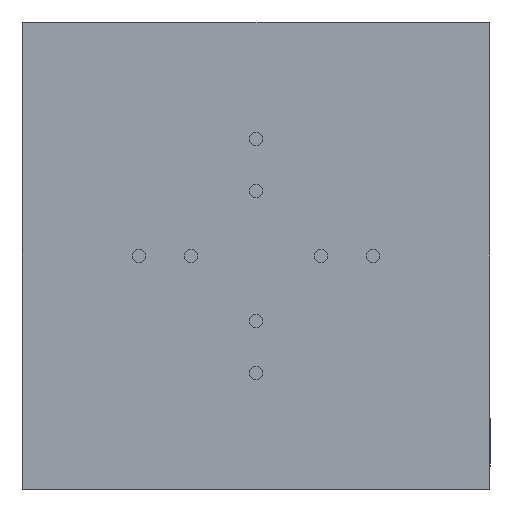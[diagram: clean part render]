
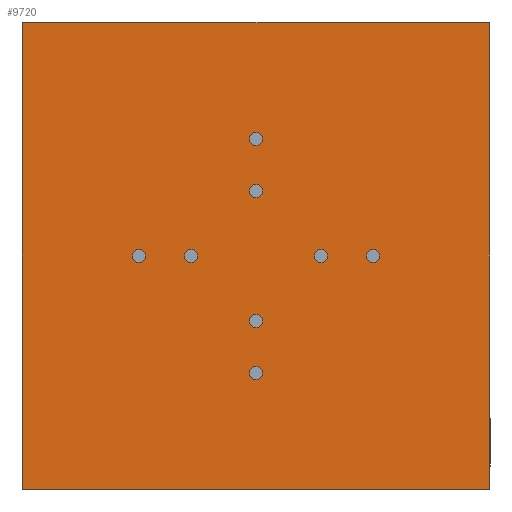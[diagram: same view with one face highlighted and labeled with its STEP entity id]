
A CAD part, left-side view. The second image highlights one B-rep face of the part: STEP entity #9720.
In plain terms, the highlighted planar face has unit normal (-1, 0, 0).
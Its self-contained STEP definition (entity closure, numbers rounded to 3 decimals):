
#529=CIRCLE('',#14145,2.459);
#530=CIRCLE('',#14147,2.459);
#531=CIRCLE('',#14149,2.459);
#532=CIRCLE('',#14151,2.459);
#533=CIRCLE('',#14153,2.459);
#534=CIRCLE('',#14155,2.459);
#535=CIRCLE('',#14157,2.459);
#536=CIRCLE('',#14159,2.459);
#2934=ORIENTED_EDGE('',*,*,#4045,.T.);
#2935=ORIENTED_EDGE('',*,*,#4044,.T.);
#2936=ORIENTED_EDGE('',*,*,#4043,.T.);
#2937=ORIENTED_EDGE('',*,*,#4042,.T.);
#2938=ORIENTED_EDGE('',*,*,#4041,.T.);
#2939=ORIENTED_EDGE('',*,*,#4040,.T.);
#2940=ORIENTED_EDGE('',*,*,#4039,.T.);
#2941=ORIENTED_EDGE('',*,*,#4038,.T.);
#2942=ORIENTED_EDGE('',*,*,#4320,.T.);
#2943=ORIENTED_EDGE('',*,*,#4321,.T.);
#2944=ORIENTED_EDGE('',*,*,#4322,.T.);
#2945=ORIENTED_EDGE('',*,*,#4323,.T.);
#4038=EDGE_CURVE('',#5087,#5087,#529,.T.);
#4039=EDGE_CURVE('',#5088,#5088,#530,.T.);
#4040=EDGE_CURVE('',#5089,#5089,#531,.T.);
#4041=EDGE_CURVE('',#5090,#5090,#532,.T.);
#4042=EDGE_CURVE('',#5091,#5091,#533,.T.);
#4043=EDGE_CURVE('',#5092,#5092,#534,.T.);
#4044=EDGE_CURVE('',#5093,#5093,#535,.T.);
#4045=EDGE_CURVE('',#5094,#5094,#536,.T.);
#4320=EDGE_CURVE('',#5273,#5274,#5917,.T.);
#4321=EDGE_CURVE('',#5274,#5275,#5918,.T.);
#4322=EDGE_CURVE('',#5275,#5276,#5919,.T.);
#4323=EDGE_CURVE('',#5276,#5273,#5920,.T.);
#5087=VERTEX_POINT('',#19858);
#5088=VERTEX_POINT('',#19861);
#5089=VERTEX_POINT('',#19864);
#5090=VERTEX_POINT('',#19867);
#5091=VERTEX_POINT('',#19870);
#5092=VERTEX_POINT('',#19873);
#5093=VERTEX_POINT('',#19876);
#5094=VERTEX_POINT('',#19879);
#5273=VERTEX_POINT('',#20480);
#5274=VERTEX_POINT('',#20481);
#5275=VERTEX_POINT('',#20483);
#5276=VERTEX_POINT('',#20485);
#5917=LINE('',#20479,#6587);
#5918=LINE('',#20482,#6588);
#5919=LINE('',#20484,#6589);
#5920=LINE('',#20486,#6590);
#6587=VECTOR('',#17231,1000.);
#6588=VECTOR('',#17232,1000.);
#6589=VECTOR('',#17233,1000.);
#6590=VECTOR('',#17234,1000.);
#7598=EDGE_LOOP('',(#2934));
#7599=EDGE_LOOP('',(#2935));
#7600=EDGE_LOOP('',(#2936));
#7601=EDGE_LOOP('',(#2937));
#7602=EDGE_LOOP('',(#2938));
#7603=EDGE_LOOP('',(#2939));
#7604=EDGE_LOOP('',(#2940));
#7605=EDGE_LOOP('',(#2941));
#7606=EDGE_LOOP('',(#2942,#2943,#2944,#2945));
#8674=FACE_BOUND('',#7598,.T.);
#8675=FACE_BOUND('',#7599,.T.);
#8676=FACE_BOUND('',#7600,.T.);
#8677=FACE_BOUND('',#7601,.T.);
#8678=FACE_BOUND('',#7602,.T.);
#8679=FACE_BOUND('',#7603,.T.);
#8680=FACE_BOUND('',#7604,.T.);
#8681=FACE_BOUND('',#7605,.T.);
#8682=FACE_BOUND('',#7606,.T.);
#9088=PLANE('',#14388);
#9720=ADVANCED_FACE('',(#8674,#8675,#8676,#8677,#8678,#8679,#8680,#8681,
#8682),#9088,.F.);
#14145=AXIS2_PLACEMENT_3D('',#19857,#16551,#16552);
#14147=AXIS2_PLACEMENT_3D('',#19860,#16555,#16556);
#14149=AXIS2_PLACEMENT_3D('',#19863,#16559,#16560);
#14151=AXIS2_PLACEMENT_3D('',#19866,#16563,#16564);
#14153=AXIS2_PLACEMENT_3D('',#19869,#16567,#16568);
#14155=AXIS2_PLACEMENT_3D('',#19872,#16571,#16572);
#14157=AXIS2_PLACEMENT_3D('',#19875,#16575,#16576);
#14159=AXIS2_PLACEMENT_3D('',#19878,#16579,#16580);
#14388=AXIS2_PLACEMENT_3D('',#20478,#17229,#17230);
#16551=DIRECTION('',(1.,0.,0.));
#16552=DIRECTION('',(0.,1.,0.));
#16555=DIRECTION('',(1.,0.,0.));
#16556=DIRECTION('',(0.,1.,0.));
#16559=DIRECTION('',(1.,0.,0.));
#16560=DIRECTION('',(0.,1.,0.));
#16563=DIRECTION('',(1.,0.,0.));
#16564=DIRECTION('',(0.,1.,0.));
#16567=DIRECTION('',(1.,0.,0.));
#16568=DIRECTION('',(0.,1.,0.));
#16571=DIRECTION('',(1.,0.,0.));
#16572=DIRECTION('',(0.,1.,0.));
#16575=DIRECTION('',(1.,0.,0.));
#16576=DIRECTION('',(0.,1.,0.));
#16579=DIRECTION('',(1.,0.,0.));
#16580=DIRECTION('',(0.,1.,0.));
#17229=DIRECTION('',(1.,0.,0.));
#17230=DIRECTION('',(0.,0.,-1.));
#17231=DIRECTION('',(0.,0.,-1.));
#17232=DIRECTION('',(0.,-1.,0.));
#17233=DIRECTION('',(0.,0.,1.));
#17234=DIRECTION('',(0.,1.,0.));
#19857=CARTESIAN_POINT('',(-126.5,-45.,-89.5));
#19858=CARTESIAN_POINT('',(-126.5,-42.542,-89.5));
#19860=CARTESIAN_POINT('',(-126.5,-25.,-89.5));
#19861=CARTESIAN_POINT('',(-126.5,-22.542,-89.5));
#19863=CARTESIAN_POINT('',(-126.5,25.,-89.5));
#19864=CARTESIAN_POINT('',(-126.5,27.459,-89.5));
#19866=CARTESIAN_POINT('',(-126.5,0.,-114.5));
#19867=CARTESIAN_POINT('',(-126.5,2.458,-114.5));
#19869=CARTESIAN_POINT('',(-126.5,0.,-134.5));
#19870=CARTESIAN_POINT('',(-126.5,2.458,-134.5));
#19872=CARTESIAN_POINT('',(-126.5,0.,-64.5));
#19873=CARTESIAN_POINT('',(-126.5,2.458,-64.5));
#19875=CARTESIAN_POINT('',(-126.5,0.,-44.5));
#19876=CARTESIAN_POINT('',(-126.5,2.458,-44.5));
#19878=CARTESIAN_POINT('',(-126.5,45.,-89.5));
#19879=CARTESIAN_POINT('',(-126.5,47.459,-89.5));
#20478=CARTESIAN_POINT('',(-126.5,-90.,0.5));
#20479=CARTESIAN_POINT('',(-126.5,89.8,-179.5));
#20480=CARTESIAN_POINT('',(-126.5,89.8,0.3));
#20481=CARTESIAN_POINT('',(-126.5,89.8,-179.3));
#20482=CARTESIAN_POINT('',(-126.5,-89.8,-179.3));
#20483=CARTESIAN_POINT('',(-126.5,-89.8,-179.3));
#20484=CARTESIAN_POINT('',(-126.5,-89.8,0.5));
#20485=CARTESIAN_POINT('',(-126.5,-89.8,0.3));
#20486=CARTESIAN_POINT('',(-126.5,90.,0.3));
